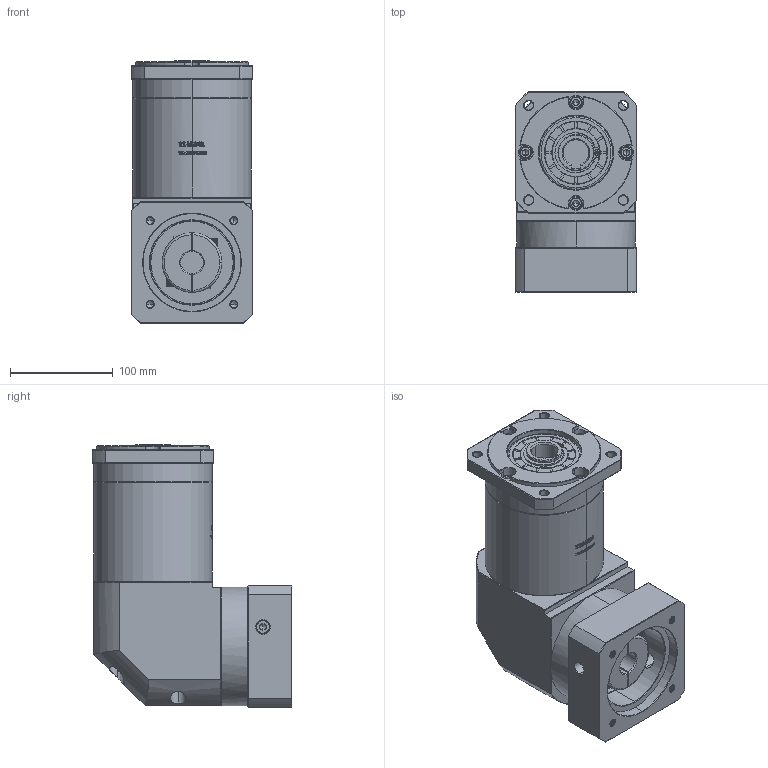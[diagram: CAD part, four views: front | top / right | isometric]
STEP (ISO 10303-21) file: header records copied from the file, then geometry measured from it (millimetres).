
FILE_DESCRIPTION (( 'STEP AP214' ), '1' );
FILE_NAME ('ZFR120A-K25-L3-22-95-115-M8.step', '2023-03-08T08:33:36', ( '' ), ( '' ), 'SwSTEP 2.0', 'SolidWorks 2016', '' );
FILE_SCHEMA (( 'AUTOMOTIVE_DESIGN' ));
Length unit declared in the file: millimetre
Products named in the file (1): ZFR120A-K25-L3-22-95-115-M8
Bounding box: 118 x 193.9 x 255 mm (x, y, z)
Volume: 3443757.6 mm3; surface area: 262354.9 mm2
Topology: 6 solids, 6 shells, 2815 faces, 7527 edges, 4857 vertices
Faces by surface type: plane 1477, bspline 598, cylinder 401, cone 331, torus 8
Entity records: 152483 total; most frequent: CARTESIAN_POINT 56868, ORIENTED_EDGE 14998, DIRECTION 10928, EDGE_CURVE 7499, VERTEX_POINT 4857, VECTOR 4696, LINE 4696, AXIS2_PLACEMENT_3D 3116
